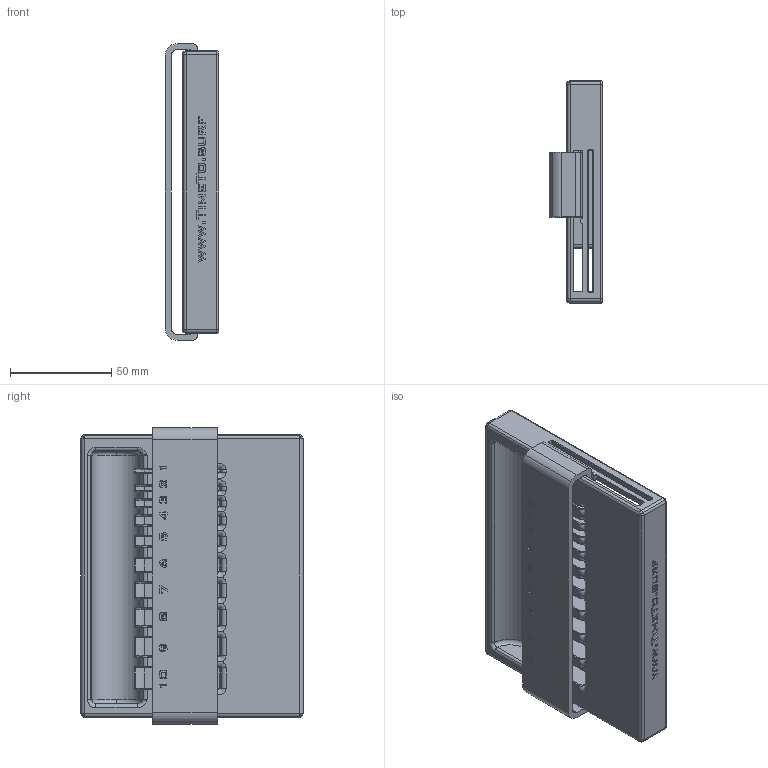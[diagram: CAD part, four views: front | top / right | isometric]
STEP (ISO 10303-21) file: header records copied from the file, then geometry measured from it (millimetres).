
FILE_DESCRIPTION(('STEP AP214'),'1');
FILE_NAME('BF-20240205-shim_tray-01cbr.2.stp','2024-02-15T17:50:16',(' '),(' '),'Spatial InterOp 3D',' ',' ');
FILE_SCHEMA(('AUTOMOTIVE_DESIGN { 1 0 10303 214 1 1 1 1 }'));
Length unit declared in the file: metre
Products named in the file (1): BF-20240205-shim_tray_partA-01cbr
Bounding box: 26.5 x 110 x 147 mm (x, y, z)
Volume: 148108.5 mm3; surface area: 89180.4 mm2
Topology: 2 solids, 2 shells, 1336 faces, 3583 edges, 2224 vertices
Faces by surface type: plane 513, cylinder 454, extrusion 159, torus 117, bspline 54, sphere 39
Entity records: 54569 total; most frequent: CARTESIAN_POINT 21625, ORIENTED_EDGE 7044, DIRECTION 6599, EDGE_CURVE 3522, AXIS2_PLACEMENT_3D 2238, VERTEX_POINT 2224, VECTOR 2123, LINE 1964
